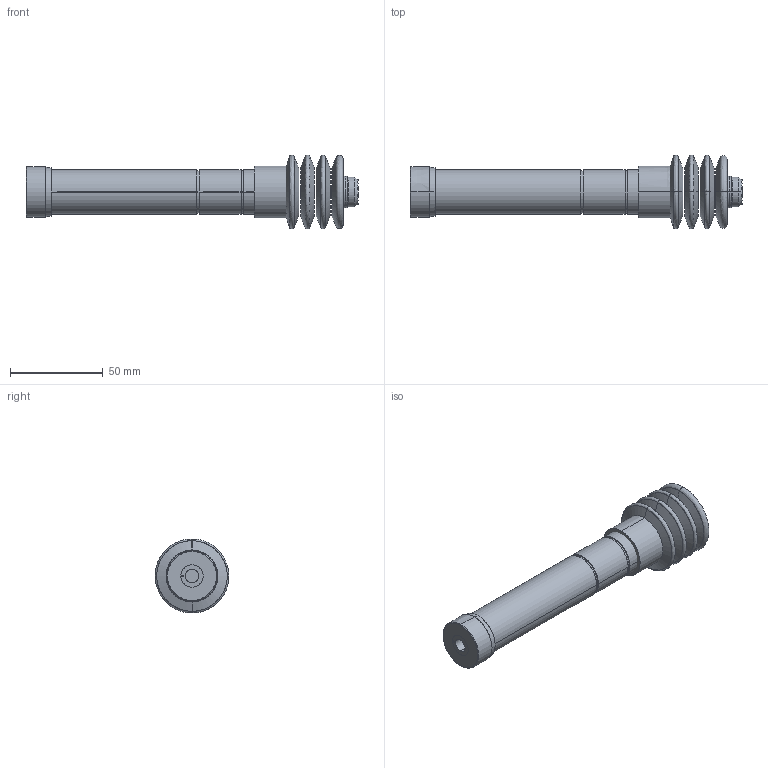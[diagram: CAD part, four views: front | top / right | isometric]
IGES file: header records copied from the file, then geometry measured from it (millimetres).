
Start section: SolidWorks IGES file using analytic representation for surfaces
Global section: file name: D:\IGS跡宒\HR15-FCZ.IGS,1; native system: 5HSolidWorks 2013; preprocessor: SolidWorks 2013; author: Administrator; date: 160406.153914; units: inch
Bounding box: 179.1 x 39.87 x 39.87 mm (x, y, z)
Surface area: 21093 mm2 (no closed solid volume)
Topology: 0 solids, 0 shells, 70 faces, 1194 edges, 1191 vertices
Faces by surface type: revolution 48, bspline 22
